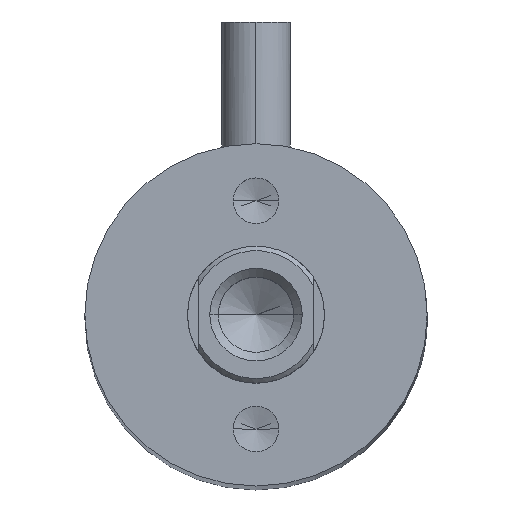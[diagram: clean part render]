
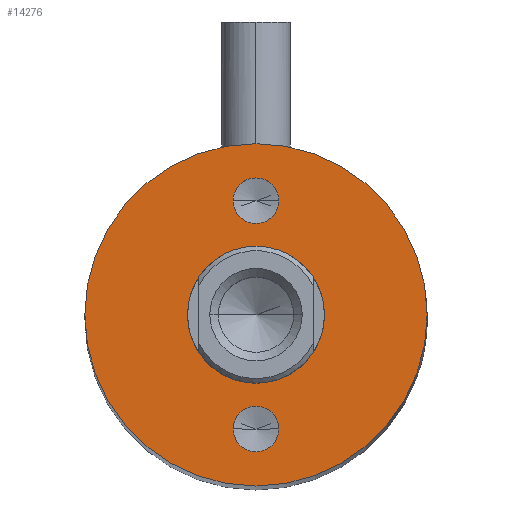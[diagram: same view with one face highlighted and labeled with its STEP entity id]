
A CAD part, top view. The second image highlights one B-rep face of the part: STEP entity #14276.
In plain terms, the highlighted planar face has unit normal (0, 0, 1).
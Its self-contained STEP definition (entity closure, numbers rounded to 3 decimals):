
#41 = AXIS2_PLACEMENT_3D ( 'NONE', #12699, #913, #47892 ) ;
#424 = ORIENTED_EDGE ( 'NONE', *, *, #34027, .F. ) ;
#446 = EDGE_CURVE ( 'NONE', #39848, #27915, #18506, .T. ) ;
#456 = CARTESIAN_POINT ( 'NONE',  ( -3., 0., 100.6 ) ) ;
#913 = DIRECTION ( 'NONE',  ( 0., 0., 1. ) ) ;
#1098 = AXIS2_PLACEMENT_3D ( 'NONE', #49603, #45673, #10755 ) ;
#1402 = DIRECTION ( 'NONE',  ( 0., 0., 1. ) ) ;
#1638 = DIRECTION ( 'NONE',  ( 1., 0., 0. ) ) ;
#1665 = PLANE ( 'NONE',  #30683 ) ;
#2571 = DIRECTION ( 'NONE',  ( 0., 0., 1. ) ) ;
#2969 = CIRCLE ( 'NONE', #41, 7.5 ) ;
#5463 = FACE_OUTER_BOUND ( 'NONE', #21010, .T. ) ;
#5861 = AXIS2_PLACEMENT_3D ( 'NONE', #36868, #44624, #37197 ) ;
#6280 = CIRCLE ( 'NONE', #49833, 3. ) ;
#6374 = EDGE_CURVE ( 'NONE', #8375, #30365, #8546, .T. ) ;
#6737 = CARTESIAN_POINT ( 'NONE',  ( 3., 0., 100.6 ) ) ;
#8375 = VERTEX_POINT ( 'NONE', #456 ) ;
#8546 = CIRCLE ( 'NONE', #9954, 3. ) ;
#9147 = DIRECTION ( 'NONE',  ( 1., 0., 0. ) ) ;
#9954 = AXIS2_PLACEMENT_3D ( 'NONE', #13587, #25014, #1638 ) ;
#10085 = CIRCLE ( 'NONE', #39133, 1. ) ;
#10755 = DIRECTION ( 'NONE',  ( 1., 0., 0. ) ) ;
#11546 = AXIS2_PLACEMENT_3D ( 'NONE', #32473, #1402, #44663 ) ;
#11857 = EDGE_LOOP ( 'NONE', ( #34966, #23519 ) ) ;
#12211 = FACE_BOUND ( 'NONE', #45914, .T. ) ;
#12699 = CARTESIAN_POINT ( 'NONE',  ( 0., 0., 100.6 ) ) ;
#13587 = CARTESIAN_POINT ( 'NONE',  ( 0., 0., 100.6 ) ) ;
#14276 = ADVANCED_FACE ( 'NONE', ( #24436, #43270, #12211, #5463 ), #1665, .T. ) ;
#15145 = CARTESIAN_POINT ( 'NONE',  ( -1., -5., 100.6 ) ) ;
#17360 = DIRECTION ( 'NONE',  ( 1., 0., 0. ) ) ;
#17439 = VERTEX_POINT ( 'NONE', #15145 ) ;
#18506 = CIRCLE ( 'NONE', #11546, 1. ) ;
#18530 = EDGE_CURVE ( 'NONE', #17439, #49283, #24966, .T. ) ;
#19884 = VERTEX_POINT ( 'NONE', #43444 ) ;
#20324 = CARTESIAN_POINT ( 'NONE',  ( 0., 5., 100.6 ) ) ;
#20611 = ORIENTED_EDGE ( 'NONE', *, *, #21256, .T. ) ;
#20626 = CIRCLE ( 'NONE', #1098, 7.5 ) ;
#20796 = DIRECTION ( 'NONE',  ( 0., 0., 1. ) ) ;
#21010 = EDGE_LOOP ( 'NONE', ( #20611, #30790 ) ) ;
#21256 = EDGE_CURVE ( 'NONE', #31655, #19884, #2969, .T. ) ;
#21467 = CARTESIAN_POINT ( 'NONE',  ( -1., 5., 100.6 ) ) ;
#23519 = ORIENTED_EDGE ( 'NONE', *, *, #18530, .F. ) ;
#24436 = FACE_BOUND ( 'NONE', #11857, .T. ) ;
#24685 = CARTESIAN_POINT ( 'NONE',  ( -7.5, 0., 100.6 ) ) ;
#24966 = CIRCLE ( 'NONE', #5861, 1. ) ;
#25014 = DIRECTION ( 'NONE',  ( 0., 0., 1. ) ) ;
#25316 = CARTESIAN_POINT ( 'NONE',  ( 1., 5., 100.6 ) ) ;
#25947 = CARTESIAN_POINT ( 'NONE',  ( 0., -5., 100.6 ) ) ;
#27294 = CIRCLE ( 'NONE', #39061, 1. ) ;
#27915 = VERTEX_POINT ( 'NONE', #21467 ) ;
#28715 = EDGE_CURVE ( 'NONE', #19884, #31655, #20626, .T. ) ;
#29842 = DIRECTION ( 'NONE',  ( 1., 0., 0. ) ) ;
#30365 = VERTEX_POINT ( 'NONE', #6737 ) ;
#30683 = AXIS2_PLACEMENT_3D ( 'NONE', #36838, #20796, #9147 ) ;
#30790 = ORIENTED_EDGE ( 'NONE', *, *, #28715, .T. ) ;
#31655 = VERTEX_POINT ( 'NONE', #24685 ) ;
#32473 = CARTESIAN_POINT ( 'NONE',  ( 0., 5., 100.6 ) ) ;
#33041 = CARTESIAN_POINT ( 'NONE',  ( 0., 0., 100.6 ) ) ;
#34027 = EDGE_CURVE ( 'NONE', #27915, #39848, #27294, .T. ) ;
#34966 = ORIENTED_EDGE ( 'NONE', *, *, #40115, .F. ) ;
#35298 = ORIENTED_EDGE ( 'NONE', *, *, #446, .F. ) ;
#35703 = DIRECTION ( 'NONE',  ( 0., 0., 1. ) ) ;
#36838 = CARTESIAN_POINT ( 'NONE',  ( 0., 0., 100.6 ) ) ;
#36868 = CARTESIAN_POINT ( 'NONE',  ( 0., -5., 100.6 ) ) ;
#37094 = ORIENTED_EDGE ( 'NONE', *, *, #6374, .F. ) ;
#37124 = DIRECTION ( 'NONE',  ( 0., 0., 1. ) ) ;
#37197 = DIRECTION ( 'NONE',  ( 1., 0., 0. ) ) ;
#39061 = AXIS2_PLACEMENT_3D ( 'NONE', #20324, #35703, #39772 ) ;
#39133 = AXIS2_PLACEMENT_3D ( 'NONE', #25947, #2571, #29842 ) ;
#39772 = DIRECTION ( 'NONE',  ( 1., 0., 0. ) ) ;
#39848 = VERTEX_POINT ( 'NONE', #25316 ) ;
#40115 = EDGE_CURVE ( 'NONE', #49283, #17439, #10085, .T. ) ;
#40498 = ORIENTED_EDGE ( 'NONE', *, *, #48027, .F. ) ;
#43270 = FACE_BOUND ( 'NONE', #44076, .T. ) ;
#43444 = CARTESIAN_POINT ( 'NONE',  ( 7.5, 0., 100.6 ) ) ;
#44076 = EDGE_LOOP ( 'NONE', ( #35298, #424 ) ) ;
#44624 = DIRECTION ( 'NONE',  ( 0., 0., 1. ) ) ;
#44663 = DIRECTION ( 'NONE',  ( 1., 0., 0. ) ) ;
#45244 = CARTESIAN_POINT ( 'NONE',  ( 1., -5., 100.6 ) ) ;
#45673 = DIRECTION ( 'NONE',  ( 0., 0., 1. ) ) ;
#45914 = EDGE_LOOP ( 'NONE', ( #37094, #40498 ) ) ;
#47892 = DIRECTION ( 'NONE',  ( 1., 0., 0. ) ) ;
#48027 = EDGE_CURVE ( 'NONE', #30365, #8375, #6280, .T. ) ;
#49283 = VERTEX_POINT ( 'NONE', #45244 ) ;
#49603 = CARTESIAN_POINT ( 'NONE',  ( 0., 0., 100.6 ) ) ;
#49833 = AXIS2_PLACEMENT_3D ( 'NONE', #33041, #37124, #17360 ) ;
